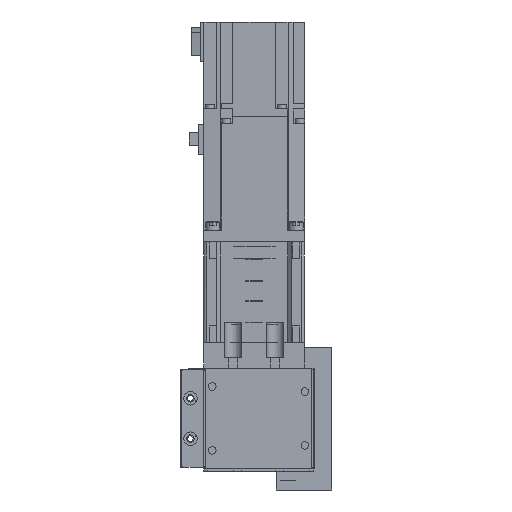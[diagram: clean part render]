
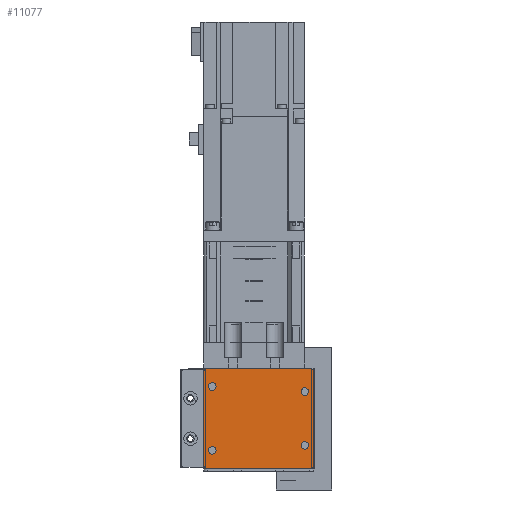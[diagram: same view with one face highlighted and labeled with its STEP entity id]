
A CAD part, left-side view. The second image highlights one B-rep face of the part: STEP entity #11077.
In plain terms, the highlighted planar face has unit normal (-1, 0, 0) as drawn and (0, 0, 1) by its records, which use the part's own axes.
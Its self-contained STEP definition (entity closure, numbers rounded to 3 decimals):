
#525=CIRCLE('',#12026,2.);
#527=CIRCLE('',#12030,2.);
#529=CIRCLE('',#12034,2.);
#530=CIRCLE('',#12037,2.25);
#532=CIRCLE('',#12040,2.25);
#534=CIRCLE('',#12043,2.25);
#536=CIRCLE('',#12046,2.25);
#539=CIRCLE('',#12050,2.);
#1761=ORIENTED_EDGE('',*,*,#4325,.F.);
#1762=ORIENTED_EDGE('',*,*,#4323,.F.);
#1763=ORIENTED_EDGE('',*,*,#4321,.F.);
#1764=ORIENTED_EDGE('',*,*,#4319,.F.);
#1765=ORIENTED_EDGE('',*,*,#4299,.T.);
#1766=ORIENTED_EDGE('',*,*,#4303,.T.);
#1767=ORIENTED_EDGE('',*,*,#4306,.T.);
#1768=ORIENTED_EDGE('',*,*,#4309,.T.);
#1769=ORIENTED_EDGE('',*,*,#4312,.T.);
#1770=ORIENTED_EDGE('',*,*,#4315,.T.);
#1771=ORIENTED_EDGE('',*,*,#4318,.T.);
#1772=ORIENTED_EDGE('',*,*,#4328,.T.);
#4299=EDGE_CURVE('',#5701,#5700,#6721,.T.);
#4303=EDGE_CURVE('',#5700,#5703,#525,.T.);
#4306=EDGE_CURVE('',#5703,#5705,#6726,.T.);
#4309=EDGE_CURVE('',#5705,#5707,#527,.T.);
#4312=EDGE_CURVE('',#5707,#5709,#6730,.T.);
#4315=EDGE_CURVE('',#5709,#5711,#529,.T.);
#4318=EDGE_CURVE('',#5711,#5713,#6734,.T.);
#4319=EDGE_CURVE('',#5714,#5714,#530,.T.);
#4321=EDGE_CURVE('',#5716,#5716,#532,.T.);
#4323=EDGE_CURVE('',#5718,#5718,#534,.T.);
#4325=EDGE_CURVE('',#5720,#5720,#536,.T.);
#4328=EDGE_CURVE('',#5713,#5701,#539,.T.);
#5700=VERTEX_POINT('',#17067);
#5701=VERTEX_POINT('',#17069);
#5703=VERTEX_POINT('',#17075);
#5705=VERTEX_POINT('',#17081);
#5707=VERTEX_POINT('',#17087);
#5709=VERTEX_POINT('',#17093);
#5711=VERTEX_POINT('',#17099);
#5713=VERTEX_POINT('',#17105);
#5714=VERTEX_POINT('',#17109);
#5716=VERTEX_POINT('',#17114);
#5718=VERTEX_POINT('',#17119);
#5720=VERTEX_POINT('',#17124);
#6721=LINE('',#17068,#7813);
#6726=LINE('',#17082,#7818);
#6730=LINE('',#17094,#7822);
#6734=LINE('',#17106,#7826);
#7813=VECTOR('',#13843,1000.);
#7818=VECTOR('',#13856,1000.);
#7822=VECTOR('',#13868,1000.);
#7826=VECTOR('',#13880,1000.);
#9001=EDGE_LOOP('',(#1761));
#9002=EDGE_LOOP('',(#1762));
#9003=EDGE_LOOP('',(#1763));
#9004=EDGE_LOOP('',(#1764));
#9005=EDGE_LOOP('',(#1765,#1766,#1767,#1768,#1769,#1770,#1771,#1772));
#9899=FACE_BOUND('',#9001,.T.);
#9900=FACE_BOUND('',#9002,.T.);
#9901=FACE_BOUND('',#9003,.T.);
#9902=FACE_BOUND('',#9004,.T.);
#9903=FACE_BOUND('',#9005,.T.);
#10545=PLANE('',#12051);
#11077=ADVANCED_FACE('',(#9899,#9900,#9901,#9902,#9903),#10545,.T.);
#12026=AXIS2_PLACEMENT_3D('',#17076,#13850,#13851);
#12030=AXIS2_PLACEMENT_3D('',#17088,#13862,#13863);
#12034=AXIS2_PLACEMENT_3D('',#17100,#13874,#13875);
#12037=AXIS2_PLACEMENT_3D('',#17108,#13883,#13884);
#12040=AXIS2_PLACEMENT_3D('',#17113,#13889,#13890);
#12043=AXIS2_PLACEMENT_3D('',#17118,#13895,#13896);
#12046=AXIS2_PLACEMENT_3D('',#17123,#13901,#13902);
#12050=AXIS2_PLACEMENT_3D('',#17129,#13909,#13910);
#12051=AXIS2_PLACEMENT_3D('',#17130,#13911,#13912);
#13843=DIRECTION('',(0.,-1.,0.));
#13850=DIRECTION('',(0.,0.,1.));
#13851=DIRECTION('',(1.,0.,0.));
#13856=DIRECTION('',(1.,0.,0.));
#13862=DIRECTION('',(0.,0.,1.));
#13863=DIRECTION('',(1.,0.,0.));
#13868=DIRECTION('',(0.,1.,0.));
#13874=DIRECTION('',(0.,0.,1.));
#13875=DIRECTION('',(1.,0.,0.));
#13880=DIRECTION('',(-1.,0.,0.));
#13883=DIRECTION('',(0.,0.,1.));
#13884=DIRECTION('',(1.,0.,0.));
#13889=DIRECTION('',(0.,0.,1.));
#13890=DIRECTION('',(1.,0.,0.));
#13895=DIRECTION('',(0.,0.,1.));
#13896=DIRECTION('',(1.,0.,0.));
#13901=DIRECTION('',(0.,0.,1.));
#13902=DIRECTION('',(1.,0.,0.));
#13909=DIRECTION('',(0.,0.,1.));
#13910=DIRECTION('',(1.,0.,0.));
#13911=DIRECTION('',(0.,0.,1.));
#13912=DIRECTION('',(1.,0.,0.));
#17067=CARTESIAN_POINT('',(-30.,-30.5,1.5));
#17068=CARTESIAN_POINT('',(-30.,30.5,1.5));
#17069=CARTESIAN_POINT('',(-30.,30.5,1.5));
#17075=CARTESIAN_POINT('',(-28.,-32.5,1.5));
#17076=CARTESIAN_POINT('',(-28.,-30.5,1.5));
#17081=CARTESIAN_POINT('',(28.,-32.5,1.5));
#17082=CARTESIAN_POINT('',(-28.,-32.5,1.5));
#17087=CARTESIAN_POINT('',(30.,-30.5,1.5));
#17088=CARTESIAN_POINT('',(28.,-30.5,1.5));
#17093=CARTESIAN_POINT('',(30.,30.5,1.5));
#17094=CARTESIAN_POINT('',(30.,-30.5,1.5));
#17099=CARTESIAN_POINT('',(28.,32.5,1.5));
#17100=CARTESIAN_POINT('',(28.,30.5,1.5));
#17105=CARTESIAN_POINT('',(-28.,32.5,1.5));
#17106=CARTESIAN_POINT('',(28.,32.5,1.5));
#17108=CARTESIAN_POINT('',(19.,27.5,1.5));
#17109=CARTESIAN_POINT('',(21.25,27.5,1.5));
#17113=CARTESIAN_POINT('',(16.,-27.5,1.5));
#17114=CARTESIAN_POINT('',(18.25,-27.5,1.5));
#17118=CARTESIAN_POINT('',(-16.,-27.5,1.5));
#17119=CARTESIAN_POINT('',(-13.75,-27.5,1.5));
#17123=CARTESIAN_POINT('',(-19.,27.5,1.5));
#17124=CARTESIAN_POINT('',(-16.75,27.5,1.5));
#17129=CARTESIAN_POINT('',(-28.,30.5,1.5));
#17130=CARTESIAN_POINT('',(-28.,-30.5,1.5));
